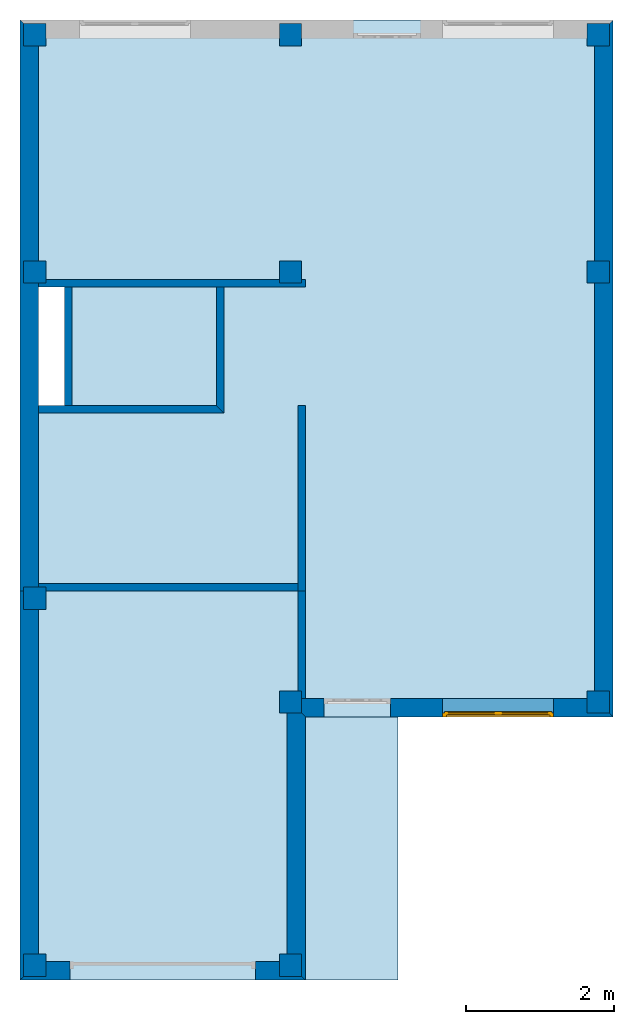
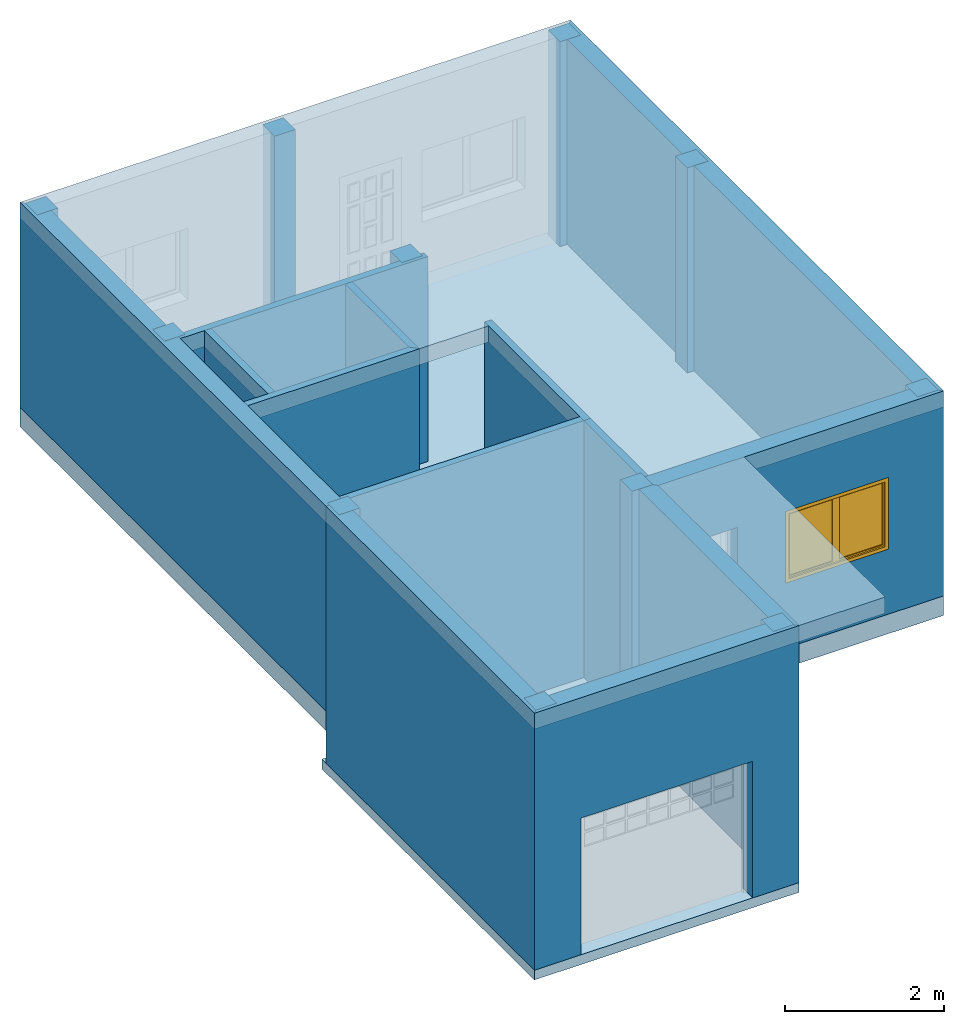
# One storey, part 1 of 5: 13 walls, 11 columns, 3 slabs, 1 window, 6 openings.
"""IFC2X3 building model written with IfcOpenShell, lengths in millimetres."""

import ifcopenshell
import ifcopenshell.guid

model = None  # the IFC model being written
_history = None  # IfcOwnerHistory: only IFC2X3 demands one
_inside = {}  # id of a spatial element -> (the spatial element, [elements in it])
_under = {}  # id of a project, library or spatial element -> (it, [spatial elements below it])
_declared = {}  # id of a project -> (the project, [libraries it declares])
_typed = {}  # id of a type object -> (the type object, [elements of that type])
_made_of = {}  # id of a material, layer set ... -> (it, [elements and type objects made of it])


def new_model(schema):
    """Start an empty IFC model of exactly this schema.

    Asked for "IFC4X3", IfcOpenShell would pick the latest addendum, in which some entities
    have other attributes; the version numbers below select the first issue.
    IFC2X3 requires an IfcOwnerHistory on every rooted entity: one is made here for all.
    """
    global model, _history
    if schema == "IFC4X3":
        model = ifcopenshell.file(schema_version=(4, 3, 0, 0))
    else:
        model = ifcopenshell.file(schema=schema)
    _inside.clear()
    _under.clear()
    _declared.clear()
    _typed.clear()
    _made_of.clear()
    _history = None
    if model.schema == "IFC2X3":
        org = make("IfcOrganization", Name="unknown")
        user = make(
            "IfcPersonAndOrganization",
            ThePerson=make("IfcPerson", FamilyName="unknown"),
            TheOrganization=org,
        )
        app = make(
            "IfcApplication",
            ApplicationDeveloper=org,
            Version="unknown",
            ApplicationFullName="unknown",
            ApplicationIdentifier="unknown",
        )
        _history = make(
            "IfcOwnerHistory",
            OwningUser=user,
            OwningApplication=app,
            ChangeAction="ADDED",
            CreationDate=0,
        )
    return model


def make(cls, **values):
    """One entity of the class cls with the attributes given. An attribute that is None is left unset."""
    return model.create_entity(
        cls, **{name: value for name, value in values.items() if value is not None}
    )


def entity(cls, *values):
    """Any entity or typed value of the class cls, its attributes in the order of the schema. None: left unset."""
    e = model.create_entity(cls)
    for i, value in enumerate(values):
        if value is not None:
            e[i] = value
    return e


def rooted(cls, **values):
    """An entity with a GlobalId (a new one), such as an element, a storey or a relation."""
    return make(cls, GlobalId=ifcopenshell.guid.new(), OwnerHistory=_history, **values)


def si_unit(unit_type, name, prefix=None):
    """IfcSIUnit, for example si_unit("LENGTHUNIT", "METRE", prefix="MILLI")."""
    return make("IfcSIUnit", UnitType=unit_type, Prefix=prefix, Name=name)


def converted_unit(unit_type, name, factor, base, dimensions=None, offset=None):
    """IfcConversionBasedUnit, such as the inch: factor (a typed value) times the base unit."""
    return make(
        "IfcConversionBasedUnit"
        if offset is None
        else "IfcConversionBasedUnitWithOffset",
        ConversionOffset=offset,
        Dimensions=None
        if dimensions is None
        else entity("IfcDimensionalExponents", *dimensions),
        UnitType=unit_type,
        Name=name,
        ConversionFactor=make(
            "IfcMeasureWithUnit", ValueComponent=factor, UnitComponent=base
        ),
    )


def assignment(units):
    """IfcUnitAssignment: the units of a project."""
    return None if units is None else make("IfcUnitAssignment", Units=units)


def point(xyz):
    """IfcCartesianPoint."""
    return None if xyz is None else make("IfcCartesianPoint", Coordinates=xyz)


def direction(xyz):
    """IfcDirection."""
    return None if xyz is None else make("IfcDirection", DirectionRatios=xyz)


def frame(location, z_axis=None, x_axis=None):
    """IfcAxis2Placement3D, a coordinate frame: its origin and axes. An axis left out is left unset."""
    return make(
        "IfcAxis2Placement3D",
        Location=point(location),
        Axis=direction(z_axis),
        RefDirection=direction(x_axis),
    )


def frame_2d(location, x_axis=None):
    """IfcAxis2Placement2D, a coordinate frame in the plane: its origin and x axis."""
    return make(
        "IfcAxis2Placement2D", Location=point(location), RefDirection=direction(x_axis)
    )


def origin_with_axes():
    """The frame at (0, 0, 0) with the z axis (0, 0, 1) and the x axis (1, 0, 0) written out."""
    return frame((0.0, 0.0, 0.0), z_axis=(0.0, 0.0, 1.0), x_axis=(1.0, 0.0, 0.0))


def origin_2d_with_axis():
    """The frame at (0, 0) in the plane with the x axis (1, 0) written out."""
    return frame_2d((0.0, 0.0), x_axis=(1.0, 0.0))


def place(relative_to, where):
    """IfcLocalPlacement: puts the frame where relative to a parent placement (None: the world)."""
    return make(
        "IfcLocalPlacement", PlacementRelTo=relative_to, RelativePlacement=where
    )


def context(
    kind, dimensions, precision=None, world=None, true_north=None, identifier=None
):
    """IfcGeometricRepresentationContext, for example the 3D "Model" context."""
    return make(
        "IfcGeometricRepresentationContext",
        ContextIdentifier=identifier,
        ContextType=kind,
        CoordinateSpaceDimension=dimensions,
        Precision=precision,
        WorldCoordinateSystem=world,
        TrueNorth=true_north,
    )


def project(units=None, contexts=None):
    """IfcProject with its units and contexts."""
    return rooted(
        "IfcProject",
        Name="project",
        RepresentationContexts=contexts,
        UnitsInContext=assignment(units),
    )


def spatial(cls, under=None, at=None, **own):
    """A site, building, storey or space (cls), placed at a placement, below another one or the project."""
    s = rooted(cls, ObjectPlacement=at, **own)
    if under is not None:
        _under.setdefault(under.id(), (under, []))[1].append(s)
    return s


def polyline(points):
    """IfcPolyline through the points."""
    return make("IfcPolyline", Points=[point(p) for p in points])


def profile(cls, at=None, kind="AREA", **sizes):
    """A parametric profile (cls). Its sizes go by their IFC names, for example OverallWidth=200.0."""
    return make(cls, ProfileType=kind, Position=at, **sizes)


def rectangle(**sizes):
    """IfcRectangleProfileDef."""
    return profile("IfcRectangleProfileDef", **sizes)


def outline(outer, holes=None, kind="AREA"):
    """IfcArbitraryClosedProfileDef: a profile drawn as a closed curve; with holes, ...WithVoids."""
    if holes is None:
        return make("IfcArbitraryClosedProfileDef", ProfileType=kind, OuterCurve=outer)
    return make(
        "IfcArbitraryProfileDefWithVoids",
        ProfileType=kind,
        OuterCurve=outer,
        InnerCurves=holes,
    )


def extrude(swept, where, along, depth):
    """IfcExtrudedAreaSolid: the profile swept, set in the frame where, extruded along a direction by depth."""
    return make(
        "IfcExtrudedAreaSolid",
        SweptArea=swept,
        Position=where,
        ExtrudedDirection=direction(along),
        Depth=depth,
    )


def faces_of(points, faces, orient=None, outer=None):
    """IfcFace entities. A face is a list of loops; a loop is a list of indices into points, from 0.

    orient and outer hold one flag for each loop. By default every Orientation is true, the
    first loop of a face is its IfcFaceOuterBound and the others are IfcFaceBound.
    """
    made = []
    for i, loops in enumerate(faces):
        bounds = []
        for j, loop in enumerate(loops):
            is_outer = j == 0 if outer is None else outer[i][j]
            bounds.append(
                make(
                    "IfcFaceOuterBound" if is_outer else "IfcFaceBound",
                    Bound=make("IfcPolyLoop", Polygon=[points[k] for k in loop]),
                    Orientation=True if orient is None else orient[i][j],
                )
            )
        made.append(make("IfcFace", Bounds=bounds))
    return made


def faceted_brep(points, faces, orient=None, outer=None, voids=None):
    """IfcFacetedBrep: a solid bounded by flat faces; with voids (closed shells), ...WithVoids."""
    shared = [point(p) for p in points]
    hull = make("IfcClosedShell", CfsFaces=faces_of(shared, faces, orient, outer))
    if voids is None:
        return make("IfcFacetedBrep", Outer=hull)
    return make(
        "IfcFacetedBrepWithVoids",
        Outer=hull,
        Voids=[
            make(cls, CfsFaces=faces_of(shared, fs, o, b)) for cls, fs, o, b in voids
        ],
    )


def shape(context_of_items, identifier, shape_type, items):
    """IfcShapeRepresentation: the items that make up one representation, for example the "Body"."""
    return make(
        "IfcShapeRepresentation",
        ContextOfItems=context_of_items,
        RepresentationIdentifier=identifier,
        RepresentationType=shape_type,
        Items=items,
    )


def source(mapping_origin, context_of_items, identifier, shape_type, items):
    """IfcRepresentationMap: a shape defined once, which mapped items show again and again."""
    return make(
        "IfcRepresentationMap",
        MappingOrigin=mapping_origin,
        MappedRepresentation=shape(context_of_items, identifier, shape_type, items),
    )


def transform(
    local_origin,
    x_axis=None,
    y_axis=None,
    z_axis=None,
    scale=None,
    scale2=None,
    scale3=None,
    uniform=True,
):
    """IfcCartesianTransformationOperator3D, or its non-uniform kind. x_axis, y_axis, z_axis: its Axis1, 2, 3."""
    if uniform:
        return make(
            "IfcCartesianTransformationOperator3D",
            Axis1=direction(x_axis),
            Axis2=direction(y_axis),
            LocalOrigin=point(local_origin),
            Scale=scale,
            Axis3=direction(z_axis),
        )
    return make(
        "IfcCartesianTransformationOperator3DnonUniform",
        Axis1=direction(x_axis),
        Axis2=direction(y_axis),
        LocalOrigin=point(local_origin),
        Scale=scale,
        Axis3=direction(z_axis),
        Scale2=scale2,
        Scale3=scale3,
    )


def mapped(mapping_source, mapping_target):
    """IfcMappedItem: shows the shape of a source again, moved by a transform."""
    return make(
        "IfcMappedItem", MappingSource=mapping_source, MappingTarget=mapping_target
    )


def material(Name=None, Category=None):
    """IfcMaterial."""
    return make("IfcMaterial", Name=Name, Category=Category)


def layer(
    of_material, thickness, ventilated=None, Name=None, Category=None, Priority=None
):
    """IfcMaterialLayer: one layer of a wall or slab, of a material (None: an air gap)."""
    return make(
        "IfcMaterialLayer",
        Material=of_material,
        LayerThickness=thickness,
        IsVentilated=ventilated,
        Name=Name,
        Category=Category,
        Priority=Priority,
    )


def layer_set(layers, Name=None):
    """IfcMaterialLayerSet."""
    return make("IfcMaterialLayerSet", MaterialLayers=layers, LayerSetName=Name)


def layer_usage(for_layer_set, set_direction, sense, offset, extent=None):
    """IfcMaterialLayerSetUsage: how a layer set lies in its element."""
    return make(
        "IfcMaterialLayerSetUsage",
        ForLayerSet=for_layer_set,
        LayerSetDirection=set_direction,
        DirectionSense=sense,
        OffsetFromReferenceLine=offset,
        ReferenceExtent=extent,
    )


def made_of(thing, what):
    """Note that an element or type object is made of a material, layer set ...; save() writes the relation."""
    if what is not None:
        _made_of.setdefault(what.id(), (what, []))[1].append(thing)
    return thing


def type_object(cls, material=None, **own):
    """A type object (cls), such as IfcWallType, which elements share."""
    return made_of(rooted(cls, **own), material)


def element(
    cls,
    number,
    at=None,
    inside=None,
    cuts=None,
    type_object=None,
    material=None,
    context=None,
    identifier="Body",
    shape_type=None,
    held_by="IfcProductDefinitionShape",
    body=None,
    shapes=None,
    **own,
):
    """One element of the class cls, such as IfcWall. Its Tag is "e" and its number.

    at: its placement. inside: the storey or other place that contains it. cuts: it is an
    opening in that element (IfcRelVoidsElement). A single representation is given by context,
    identifier, shape_type and body (its items); several are given by shapes. held_by: the class
    of the entity that holds the representations. save() writes the other relations.
    """
    e = rooted(cls, Tag="e%d" % number, ObjectPlacement=at, **own)
    if body is not None:
        shapes = [shape(context, identifier, shape_type, body)]
    if shapes is not None:
        e.Representation = make(held_by, Representations=shapes)
    if inside is not None:
        _inside.setdefault(inside.id(), (inside, []))[1].append(e)
    if cuts is not None:
        rooted(
            "IfcRelVoidsElement", RelatingBuildingElement=cuts, RelatedOpeningElement=e
        )
    if type_object is not None:
        _typed.setdefault(type_object.id(), (type_object, []))[1].append(e)
    return made_of(e, material)


def fill(opening, filler):
    """IfcRelFillsElement: the door or window that sits in an opening."""
    return rooted(
        "IfcRelFillsElement",
        RelatingOpeningElement=opening,
        RelatedBuildingElement=filler,
    )


def aggregate(whole, parts):
    """IfcRelAggregates: a whole, such as a stair, and the parts it consists of."""
    return rooted("IfcRelAggregates", RelatingObject=whole, RelatedObjects=parts)


def save(model, path):
    """Write the relations noted so far, then the file.

    IfcRelAggregates (storeys below a building ...), IfcRelContainedInSpatialStructure (elements
    in a storey), IfcRelDefinesByType, IfcRelAssociatesMaterial and IfcRelDeclares: one each for
    every whole, place, type object, material and project.
    """
    for whole, parts in _under.values():
        aggregate(whole, parts)
    for where, things in _inside.values():
        rooted(
            "IfcRelContainedInSpatialStructure",
            RelatedElements=things,
            RelatingStructure=where,
        )
    for kind, things in _typed.values():
        rooted("IfcRelDefinesByType", RelatedObjects=things, RelatingType=kind)
    for what, things in _made_of.values():
        rooted("IfcRelAssociatesMaterial", RelatedObjects=things, RelatingMaterial=what)
    for by, libraries in _declared.values():
        rooted("IfcRelDeclares", RelatingContext=by, RelatedDefinitions=libraries)
    model.write(path)


model = new_model("IFC2X3")

# Units and contexts
context_of_model = context(None, 3, precision=1e-05, world=origin_with_axes(), true_north=direction((6.123234e-17, 1.0)))
plan_context = context("Plan", 3, precision=1e-05, world=origin_with_axes(), true_north=direction((6.123234e-17, 1.0)))
model_context = context("Model", 3, precision=1e-05, world=origin_with_axes(), true_north=direction((6.123234e-17, 1.0)))
ifc_project = project(units=[si_unit("LENGTHUNIT", "METRE", prefix="MILLI"), si_unit("AREAUNIT", "SQUARE_METRE"), si_unit("VOLUMEUNIT", "CUBIC_METRE"), converted_unit("PLANEANGLEUNIT", "DEGREE", entity("IfcPlaneAngleMeasure", 0.017453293), si_unit("PLANEANGLEUNIT", "RADIAN"), dimensions=[0, 0, 0, 0, 0, 0, 0]), si_unit("SOLIDANGLEUNIT", "STERADIAN"), si_unit("MASSUNIT", "GRAM"), si_unit("TIMEUNIT", "SECOND"), si_unit("THERMODYNAMICTEMPERATUREUNIT", "DEGREE_CELSIUS"), si_unit("LUMINOUSINTENSITYUNIT", "LUMEN")], contexts=[context_of_model, plan_context, model_context])

# Site, building, storey
site_placement = place(None, origin_with_axes())
site = spatial("IfcSite", under=ifc_project, at=site_placement, Name="Por defecto Sitio", CompositionType="ELEMENT")
building_placement = place(site_placement, origin_with_axes())
building = spatial("IfcBuilding", under=site, at=building_placement, Name="Por defecto Edificio", CompositionType="ELEMENT")
storey_placement = place(building_placement, origin_with_axes())
storey = spatial("IfcBuildingStorey", under=building, at=storey_placement, Name="Planta Baja", CompositionType="ELEMENT", Elevation=0.0)

# Columns
ifc_material_1 = material(Name="Hormigón armado")
for number, where, z_axis, x_axis, name in (
    (1, (0.0, 0.0, 0.0), (0.0, 0.0, 1.0), (1.0, 0.0, 0.0), "Pilar-001"),
    (2, (3450.0, 0.0, 0.0), (0.0, 0.0, 1.0), (1.0, 0.0, 0.0), "Pilar-002"),
    (3, (3450.0, 3550.0, 0.0), (0.0, 0.0, 1.0), (1.0, 0.0, 0.0), "Pilar-003"),
    (4, (7600.0, 3550.0, 0.0), (0.0, 0.0, 1.0), (1.0, 0.0, 0.0), "Pilar-004"),
    (5, (0.0, 4950.0, 0.0), (0.0, 0.0, 1.0), (1.0, 0.0, 0.0), "Pilar-005"),
    (6, (7600.0, 9350.0, 0.0), (0.0, 0.0, 1.0), (1.0, 0.0, 0.0), "Pilar-006"),
    (7, (3450.0, 9350.0, 0.0), (0.0, 0.0, 1.0), (1.0, 0.0, 0.0), "Pilar-007"),
    (8, (0.0, 9350.0, 0.0), (0.0, 0.0, 1.0), (1.0, 0.0, 0.0), "Pilar-008"),
    (9, (0.0, 12550.0, 0.0), (0.0, 0.0, 1.0), (1.0, 0.0, 0.0), "Pilar-009"),
    (10, (3450.0, 12550.0, 0.0), (0.0, 0.0, 1.0), (1.0, 0.0, 0.0), "Pilar-010"),
    (11, (7600.0, 12550.0, 0.0), (0.0, 0.0, 1.0), (1.0, 0.0, 0.0), "Pilar-011"),
):
    element("IfcColumn", number, at=place(storey_placement, frame(where, z_axis=z_axis, x_axis=x_axis)), inside=storey, material=ifc_material_1, Name=name, context=model_context, shape_type="SweptSolid", body=[
        extrude(rectangle(XDim=300.0, YDim=300.0, at=origin_2d_with_axis()), origin_with_axes(), (0.0, 0.0, 1.0), 3150.0),
    ])

# Slab, opening
ifc_layer_1 = layer(ifc_material_1, 300.0, ventilated="UNKNOWN")
ifc_layer_set_1 = layer_set([ifc_layer_1], Name="Hormigón armado 300")
ifc_layer_usage_1 = layer_usage(ifc_layer_set_1, "AXIS3", "NEGATIVE", 300.0)
slab_1_placement = place(storey_placement, frame((7800.0, 3350.0, -300.0), z_axis=(0.0, 0.0, 1.0), x_axis=(-1.0, 0.0, 0.0)))
slab_1 = element("IfcSlab", 12, at=slab_1_placement, inside=storey, material=ifc_layer_usage_1, Name="Forj-001", PredefinedType="FLOOR", context=model_context, shape_type="SweptSolid", body=[
    extrude(outline(polyline([(0.0, 0.0), (4250.0, 0.0), (4250.0, -1700.0), (8000.0, -1700.0), (8000.0, -9400.0), (0.0, -9400.0), (0.0, 0.0)])), origin_with_axes(), (0.0, 0.0, 1.0), 300.0),
])
opening_1_placement = place(slab_1_placement, origin_with_axes())
element("IfcOpeningElement", 13, at=opening_1_placement, cuts=slab_1, context=model_context, shape_type="SweptSolid", body=[
    extrude(outline(polyline([(7749.9999, -5800.0), (7400.0, -5800.0), (7400.0, -4200.0), (7749.9999, -4200.0), (7749.9999, -5800.0)])), origin_with_axes(), (0.0, 0.0, 1.0), 300.0),
])

# Slab, openings
ifc_layer_2 = layer(ifc_material_1, 250.0, ventilated="UNKNOWN")
ifc_layer_set_2 = layer_set([ifc_layer_2], Name="Hormigón armado 250")
ifc_layer_usage_2 = layer_usage(ifc_layer_set_2, "AXIS3", "NEGATIVE", 250.0)
slab_2_placement = place(storey_placement, frame((7800.0, 3350.0, 2900.0), z_axis=(0.0, 0.0, 1.0), x_axis=(-1.0, 0.0, 0.0)))
slab_2 = element("IfcSlab", 14, at=slab_2_placement, inside=storey, material=ifc_layer_usage_2, Name="Forj-002", PredefinedType="FLOOR", context=model_context, shape_type="SweptSolid", body=[
    extrude(outline(polyline([(0.0, 0.0), (2900.0, 0.0), (2900.0, 3550.0), (8000.0, 3550.0), (8000.0, -9400.0), (0.0, -9400.0), (0.0, 0.0)])), origin_with_axes(), (0.0, 0.0, 1.0), 250.0),
])
opening_2_placement = place(slab_2_placement, origin_with_axes())
element("IfcOpeningElement", 15, at=opening_2_placement, cuts=slab_2, context=model_context, shape_type="SweptSolid", body=[
    extrude(outline(polyline([(7749.9999, -4099.9999), (4250.0, -4099.9999), (4250.0, -1800.0), (7749.9999, -1800.0), (7749.9999, -4099.9999)])), origin_with_axes(), (0.0, 0.0, 1.0), 250.0),
])
opening_3_placement = place(slab_2_placement, origin_with_axes())
element("IfcOpeningElement", 16, at=opening_3_placement, cuts=slab_2, context=model_context, shape_type="SweptSolid", body=[
    extrude(outline(polyline([(7749.9999, -5800.0), (7400.0, -5800.0), (7400.0, -4200.0), (7749.9999, -4200.0), (7749.9999, -5800.0)])), origin_with_axes(), (0.0, 0.0, 1.0), 250.0),
])

# Slab
ifc_material_2 = material(Name="Hormigón en masa")
ifc_layer_3 = layer(ifc_material_2, 150.0, ventilated="UNKNOWN")
ifc_layer_set_3 = layer_set([ifc_layer_3], Name="Hormigón en masa 150")
ifc_layer_usage_3 = layer_usage(ifc_layer_set_3, "AXIS3", "NEGATIVE", 150.0)
slab_3_placement = place(storey_placement, frame((3650.0, -200.0, -950.0), z_axis=(0.0, 0.0, 1.0), x_axis=(-1.0, 0.0, 0.0)))
element("IfcSlab", 17, at=slab_3_placement, inside=storey, material=ifc_layer_usage_3, Name="Forj-003", PredefinedType="FLOOR", context=model_context, shape_type="SweptSolid", body=[
    extrude(outline(polyline([(0.0, 0.0), (3850.0, 0.0), (3850.0, -5350.0), (0.0, -5350.0), (0.0, 0.0)])), origin_with_axes(), (0.0, 0.0, 1.0), 150.0),
])

# Wall, openings, window
ifc_material_3 = material(Name="Bloque mampostería")
ifc_layer_4 = layer(ifc_material_3, 250.0, ventilated="UNKNOWN")
ifc_layer_set_4 = layer_set([ifc_layer_4], Name="Bloque mampostería 250")
ifc_layer_usage_4 = layer_usage(ifc_layer_set_4, "AXIS2", "NEGATIVE", 0.0)
wall_type_1 = type_object("IfcWallType", Name="Bloque mampostería 250", PredefinedType="NOTDEFINED", material=ifc_layer_set_4)
wall_1_placement = place(storey_placement, frame((7800.0, 3350.0, 0.0), z_axis=(0.0, 0.0, 1.0), x_axis=(-1.0, 0.0, 0.0)))
wall_1 = element("IfcWallStandardCase", 18, at=wall_1_placement, inside=storey, type_object=wall_type_1, material=ifc_layer_usage_4, Name="Muro-001", context=model_context, shape_type="SweptSolid", body=[
    extrude(outline(polyline([(250.0, -250.0), (4400.0, -250.0), (4150.0, 0.0), (0.0, 0.0), (250.0, -250.0)])), origin_with_axes(), (0.0, 0.0, 1.0), 3150.0),
])
opening_4_placement = place(wall_1_placement, frame((3450.0, -250.0, 0.0), z_axis=(0.0, 0.0, 1.0), x_axis=(1.0, 0.0, 0.0)))
element("IfcOpeningElement", 19, at=opening_4_placement, cuts=wall_1, ObjectType="Opening", context=model_context, shape_type="SweptSolid", body=[
    extrude(rectangle(XDim=900.0, YDim=2100.0, at=frame_2d((0.0, 1050.0), x_axis=(-1.0, 0.0))), frame((0.0, 0.0, 0.0), z_axis=(0.0, 1.0, 0.0), x_axis=(-1.0, 0.0, 0.0)), (0.0, 0.0, 1.0), 250.0),
])
opening_5_placement = place(wall_1_placement, frame((1550.0, -250.0, 1000.0), z_axis=(0.0, 0.0, 1.0), x_axis=(1.0, 0.0, 0.0)))
opening_5 = element("IfcOpeningElement", 20, at=opening_5_placement, cuts=wall_1, ObjectType="Opening", context=model_context, shape_type="SweptSolid", body=[
    extrude(rectangle(XDim=1500.0, YDim=1100.0, at=frame_2d((0.0, 550.0), x_axis=(-1.0, 0.0))), frame((0.0, 0.0, 0.0), z_axis=(0.0, 1.0, 0.0), x_axis=(-1.0, 0.0, 0.0)), (0.0, 0.0, 1.0), 250.0),
])
window_style = type_object("IfcWindowStyle", Name="V2 Practicable 13", ConstructionType="NOTDEFINED", OperationType="SINGLE_PANEL", ParameterTakesPrecedence=False, Sizeable=False)
shared_shape = source(origin_with_axes(), model_context, "Body", "Brep", [
    faceted_brep([(25.0, 50.0, 1050.0), (0.0, 50.0, 1050.0), (0.0, 0.0, 1050.0), (50.0, 0.0, 1050.0), (50.0, 25.0, 1050.0), (25.0, 25.0, 1050.0), (25.0, 50.0, 50.0), (0.0, 50.0, 50.0), (0.0, 0.0, 50.0), (50.0, 0.0, 50.0), (50.0, 25.0, 50.0), (25.0, 25.0, 50.0)], [[[0, 1, 2, 3, 4, 5]], [[6, 7, 1, 0]], [[1, 7, 8, 2]], [[2, 8, 9, 3]], [[4, 3, 9, 10]], [[10, 11, 5, 4]], [[5, 11, 6, 0]], [[11, 10, 9, 8, 7, 6]]]),
    faceted_brep([(1450.0, 25.0, 1050.0), (1450.0, 0.0, 1050.0), (1500.0, 0.0, 1050.0), (1500.0, 50.0, 1050.0), (1475.0, 50.0, 1050.0), (1475.0, 25.0, 1050.0), (1450.0, 25.0, 50.0), (1450.0, 0.0, 50.0), (1500.0, 0.0, 50.0), (1500.0, 50.0, 50.0), (1475.0, 50.0, 50.0), (1475.0, 25.0, 50.0)], [[[0, 1, 2, 3, 4, 5]], [[6, 7, 1, 0]], [[8, 2, 1, 7]], [[9, 3, 2, 8]], [[4, 3, 9, 10]], [[10, 11, 5, 4]], [[5, 11, 6, 0]], [[11, 10, 9, 8, 7, 6]]]),
    faceted_brep([(1450.0, 25.0, 50.0), (1450.0, 0.0, 50.0), (1500.0, 0.0, 50.0), (1500.0, 50.0, 50.0), (1475.0, 50.0, 50.0), (1475.0, 25.0, 50.0), (50.0, 25.0, 50.0), (50.0, 0.0, 50.0), (0.0, 0.0, 50.0), (0.0, 0.0, 0.0), (1500.0, 0.0, 0.0), (1500.0, 50.0, 0.0), (25.0, 50.0, 25.0), (750.0, 50.0, 25.0), (1475.0, 50.0, 25.0), (0.0, 50.0, 0.0), (0.0, 50.0, 50.0), (25.0, 50.0, 50.0), (1475.0, 25.0, 25.0), (750.0, 25.0, 25.0), (25.0, 25.0, 25.0), (25.0, 25.0, 50.0)], [[[0, 1, 2, 3, 4, 5]], [[6, 7, 1, 0]], [[8, 9, 10, 2, 1, 7]], [[11, 3, 2, 10]], [[12, 13, 14, 4, 3, 11, 15, 16, 17]], [[14, 18, 5, 4]], [[5, 18, 19, 20, 21, 6, 0]], [[21, 17, 16, 8, 7, 6]], [[16, 15, 9, 8]], [[15, 11, 10, 9]], [[12, 20, 19, 13]], [[13, 19, 18, 14]], [[21, 20, 12, 17]]]),
    faceted_brep([(25.0, 50.0, 1075.0), (25.0, 50.0, 1050.0), (0.0, 50.0, 1050.0), (0.0, 50.0, 1100.0), (1500.0, 50.0, 1100.0), (1500.0, 50.0, 1050.0), (1475.0, 50.0, 1050.0), (1475.0, 50.0, 1075.0), (750.0, 50.0, 1075.0), (25.0, 25.0, 1075.0), (25.0, 25.0, 1050.0), (50.0, 25.0, 1050.0), (50.0, 0.0, 1050.0), (0.0, 0.0, 1050.0), (0.0, 0.0, 1100.0), (1500.0, 0.0, 1100.0), (1500.0, 0.0, 1050.0), (1475.0, 25.0, 1050.0), (1450.0, 0.0, 1050.0), (1450.0, 25.0, 1050.0), (1475.0, 25.0, 1075.0), (750.0, 25.0, 1075.0)], [[[0, 1, 2, 3, 4, 5, 6, 7, 8]], [[0, 9, 10, 1]], [[10, 11, 12, 13, 2, 1]], [[3, 2, 13, 14]], [[4, 3, 14, 15]], [[5, 4, 15, 16]], [[17, 6, 5, 16, 18, 19]], [[6, 17, 20, 7]], [[7, 20, 21, 8]], [[8, 21, 9, 0]], [[19, 11, 10, 9, 21, 20, 17]], [[19, 18, 12, 11]], [[16, 15, 14, 13, 12, 18]]]),
    faceted_brep([(1425.0, 25.0, 75.0), (1425.0, 25.0, 1025.0), (1425.0, 75.0, 1025.0), (1425.0, 75.0, 75.0), (1475.0, 25.0, 75.0), (1475.0, 25.0, 1025.0), (1475.0, 75.0, 1025.0), (1475.0, 75.0, 75.0)], [[[0, 1, 2, 3]], [[0, 4, 5, 1]], [[1, 5, 6, 2]], [[3, 2, 6, 7]], [[4, 0, 3, 7]], [[5, 4, 7, 6]]]),
    faceted_brep([(750.0, 25.0, 75.0), (750.0, 25.0, 1025.0), (750.0, 75.0, 1025.0), (750.0, 75.0, 75.0), (800.0, 25.0, 75.0), (800.0, 25.0, 1025.0), (800.0, 75.0, 1025.0), (800.0, 75.0, 75.0)], [[[0, 1, 2, 3]], [[0, 4, 5, 1]], [[1, 5, 6, 2]], [[3, 2, 6, 7]], [[4, 0, 3, 7]], [[5, 4, 7, 6]]]),
    faceted_brep([(750.0, 25.0, 25.0), (750.0, 25.0, 75.0), (750.0, 75.0, 75.0), (750.0, 75.0, 25.0), (1475.0, 25.0, 25.0), (1475.0, 25.0, 75.0), (1425.0, 25.0, 75.0), (800.0, 25.0, 75.0), (800.0, 75.0, 75.0), (1425.0, 75.0, 75.0), (1475.0, 75.0, 75.0), (1475.0, 75.0, 25.0)], [[[0, 1, 2, 3]], [[0, 4, 5, 6, 7, 1]], [[1, 7, 8, 2]], [[3, 2, 8, 9, 10, 11]], [[4, 0, 3, 11]], [[5, 4, 11, 10]], [[6, 5, 10, 9]], [[7, 6, 9, 8]]]),
    faceted_brep([(1475.0, 25.0, 1075.0), (1475.0, 25.0, 1025.0), (1475.0, 75.0, 1025.0), (1475.0, 75.0, 1075.0), (750.0, 25.0, 1075.0), (750.0, 25.0, 1025.0), (800.0, 25.0, 1025.0), (1425.0, 25.0, 1025.0), (1425.0, 75.0, 1025.0), (800.0, 75.0, 1025.0), (750.0, 75.0, 1025.0), (750.0, 75.0, 1075.0)], [[[0, 1, 2, 3]], [[0, 4, 5, 6, 7, 1]], [[1, 7, 8, 2]], [[3, 2, 8, 9, 10, 11]], [[4, 0, 3, 11]], [[5, 4, 11, 10]], [[6, 5, 10, 9]], [[7, 6, 9, 8]]]),
    faceted_brep([(1425.0, 40.0, 75.0), (800.0, 40.0, 75.0), (800.0, 60.0, 75.0), (1425.0, 60.0, 75.0), (1425.0, 40.0, 1025.0), (800.0, 40.0, 1025.0), (800.0, 60.0, 1025.0), (1425.0, 60.0, 1025.0)], [[[0, 1, 2, 3]], [[0, 4, 5, 1]], [[1, 5, 6, 2]], [[3, 2, 6, 7]], [[4, 0, 3, 7]], [[5, 4, 7, 6]]]),
    faceted_brep([(700.0, 25.0, 75.0), (700.0, 25.0, 1025.0), (700.0, 75.0, 1025.0), (700.0, 75.0, 75.0), (750.0, 25.0, 75.0), (750.0, 25.0, 1025.0), (750.0, 75.0, 1025.0), (750.0, 75.0, 75.0)], [[[0, 1, 2, 3]], [[0, 4, 5, 1]], [[1, 5, 6, 2]], [[3, 2, 6, 7]], [[4, 0, 3, 7]], [[5, 4, 7, 6]]]),
    faceted_brep([(25.0, 25.0, 75.0), (25.0, 25.0, 1025.0), (25.0, 75.0, 1025.0), (25.0, 75.0, 75.0), (75.0, 25.0, 75.0), (75.0, 25.0, 1025.0), (75.0, 75.0, 1025.0), (75.0, 75.0, 75.0)], [[[0, 1, 2, 3]], [[0, 4, 5, 1]], [[1, 5, 6, 2]], [[3, 2, 6, 7]], [[4, 0, 3, 7]], [[5, 4, 7, 6]]]),
    faceted_brep([(25.0, 25.0, 25.0), (25.0, 25.0, 75.0), (25.0, 75.0, 75.0), (25.0, 75.0, 25.0), (750.0, 25.0, 25.0), (750.0, 25.0, 75.0), (700.0, 25.0, 75.0), (75.0, 25.0, 75.0), (75.0, 75.0, 75.0), (700.0, 75.0, 75.0), (750.0, 75.0, 75.0), (750.0, 75.0, 25.0)], [[[0, 1, 2, 3]], [[0, 4, 5, 6, 7, 1]], [[1, 7, 8, 2]], [[3, 2, 8, 9, 10, 11]], [[4, 0, 3, 11]], [[5, 4, 11, 10]], [[6, 5, 10, 9]], [[7, 6, 9, 8]]]),
    faceted_brep([(750.0, 25.0, 1075.0), (750.0, 25.0, 1025.0), (750.0, 75.0, 1025.0), (750.0, 75.0, 1075.0), (25.0, 25.0, 1075.0), (25.0, 25.0, 1025.0), (75.0, 25.0, 1025.0), (700.0, 25.0, 1025.0), (700.0, 75.0, 1025.0), (75.0, 75.0, 1025.0), (25.0, 75.0, 1025.0), (25.0, 75.0, 1075.0)], [[[0, 1, 2, 3]], [[0, 4, 5, 6, 7, 1]], [[1, 7, 8, 2]], [[3, 2, 8, 9, 10, 11]], [[4, 0, 3, 11]], [[5, 4, 11, 10]], [[6, 5, 10, 9]], [[7, 6, 9, 8]]]),
    faceted_brep([(700.0, 40.0, 75.0), (75.0, 40.0, 75.0), (75.0, 60.0, 75.0), (700.0, 60.0, 75.0), (700.0, 40.0, 1025.0), (75.0, 40.0, 1025.0), (75.0, 60.0, 1025.0), (700.0, 60.0, 1025.0)], [[[0, 1, 2, 3]], [[0, 4, 5, 1]], [[1, 5, 6, 2]], [[3, 2, 6, 7]], [[4, 0, 3, 7]], [[5, 4, 7, 6]]]),
])
window_placement = place(opening_5_placement, frame((750.0, 250.0, 0.0), z_axis=(0.0, 0.0, 1.0), x_axis=(-1.0, 0.0, 0.0)))
window = element("IfcWindow", 21, at=window_placement, inside=storey, type_object=window_style, Name="V03", OverallHeight=1100.0, OverallWidth=1500.0, context=model_context, shape_type="MappedRepresentation", body=[
    mapped(shared_shape, transform((0.0, 0.0, 0.0), scale=1.0)),
])
fill(opening_5, window)

# Wall
ifc_layer_usage_5 = layer_usage(ifc_layer_set_4, "AXIS2", "NEGATIVE", 0.0)
wall_2_placement = place(storey_placement, frame((3650.0, 3350.0, -800.0), z_axis=(0.0, 0.0, 1.0), x_axis=(0.0, -1.0, 0.0)))
element("IfcWallStandardCase", 22, at=wall_2_placement, inside=storey, type_object=wall_type_1, material=ifc_layer_usage_5, Name="Muro-002", context=model_context, shape_type="SweptSolid", body=[
    extrude(outline(polyline([(-250.0, -250.0), (3300.0, -250.0), (3550.0, 0.0), (0.0, 0.0), (-250.0, -250.0)])), origin_with_axes(), (0.0, 0.0, 1.0), 3950.0),
])

# Wall, opening
ifc_layer_usage_6 = layer_usage(ifc_layer_set_4, "AXIS2", "NEGATIVE", 0.0)
wall_3_placement = place(storey_placement, frame((3650.0, -200.0, -800.0), z_axis=(0.0, 0.0, 1.0), x_axis=(-1.0, 0.0, 0.0)))
wall_3 = element("IfcWallStandardCase", 23, at=wall_3_placement, inside=storey, type_object=wall_type_1, material=ifc_layer_usage_6, Name="Muro-003", context=model_context, shape_type="SweptSolid", body=[
    extrude(outline(polyline([(250.0, -250.0), (3600.0, -250.0), (3850.0, 0.0), (0.0, 0.0), (250.0, -250.0)])), origin_with_axes(), (0.0, 0.0, 1.0), 3950.0),
])
opening_6_placement = place(wall_3_placement, frame((1925.0, -250.0, 0.0), z_axis=(0.0, 0.0, 1.0), x_axis=(1.0, 0.0, 0.0)))
element("IfcOpeningElement", 24, at=opening_6_placement, cuts=wall_3, ObjectType="Opening", context=model_context, shape_type="SweptSolid", body=[
    extrude(rectangle(XDim=2500.0, YDim=2100.0, at=frame_2d((0.0, 1050.0), x_axis=(-1.0, 0.0))), frame((0.0, 0.0, 0.0), z_axis=(0.0, 1.0, 0.0), x_axis=(-1.0, 0.0, 0.0)), (0.0, 0.0, 1.0), 250.0),
])

# Walls
ifc_layer_usage_7 = layer_usage(ifc_layer_set_4, "AXIS2", "NEGATIVE", 0.0)
wall_4_placement = place(storey_placement, frame((-200.0, 5050.0, 0.0), z_axis=(0.0, 0.0, 1.0), x_axis=(0.0, 1.0, 0.0)))
element("IfcWallStandardCase", 25, at=wall_4_placement, inside=storey, type_object=wall_type_1, material=ifc_layer_usage_7, Name="Muro-004", context=model_context, shape_type="SweptSolid", body=[
    extrude(outline(polyline([(0.0, -250.0), (7450.0, -250.0), (7700.0, 0.0), (0.0, 0.0), (0.0, -250.0)])), origin_with_axes(), (0.0, 0.0, 1.0), 3150.0),
])
ifc_layer_usage_8 = layer_usage(ifc_layer_set_4, "AXIS2", "NEGATIVE", 0.0)
wall_5_placement = place(storey_placement, frame((7800.0, 12750.0, 0.0), z_axis=(0.0, 0.0, 1.0), x_axis=(0.0, -1.0, 0.0)))
element("IfcWallStandardCase", 26, at=wall_5_placement, inside=storey, type_object=wall_type_1, material=ifc_layer_usage_8, Name="Muro-006", context=model_context, shape_type="SweptSolid", body=[
    extrude(outline(polyline([(250.0, -250.0), (9150.0, -250.0), (9400.0, 0.0), (0.0, 0.0), (250.0, -250.0)])), origin_with_axes(), (0.0, 0.0, 1.0), 3150.0),
])
ifc_layer_usage_9 = layer_usage(ifc_layer_set_4, "AXIS2", "NEGATIVE", 0.0)
wall_6_placement = place(storey_placement, frame((-200.0, -200.0, -800.0), z_axis=(0.0, 0.0, 1.0), x_axis=(0.0, 1.0, 0.0)))
element("IfcWallStandardCase", 27, at=wall_6_placement, inside=storey, type_object=wall_type_1, material=ifc_layer_usage_9, Name="Muro-003", context=model_context, shape_type="SweptSolid", body=[
    extrude(outline(polyline([(250.0, -250.0), (5250.0, -250.0), (5250.0, 0.0), (0.0, 0.0), (250.0, -250.0)])), origin_with_axes(), (0.0, 0.0, 1.0), 3950.0),
])
ifc_layer_5 = layer(ifc_material_3, 100.0, ventilated="UNKNOWN")
ifc_layer_set_5 = layer_set([ifc_layer_5], Name="Bloque mampostería 100")
ifc_layer_usage_10 = layer_usage(ifc_layer_set_5, "AXIS2", "POSITIVE", 0.0)
wall_type_2 = type_object("IfcWallType", Name="Bloque mampostería 100", PredefinedType="NOTDEFINED", material=ifc_layer_set_5)
wall_7_placement = place(storey_placement, frame((3650.0, 5050.0, 0.0), z_axis=(0.0, 0.0, 1.0), x_axis=(0.0, 1.0, 0.0)))
element("IfcWallStandardCase", 28, at=wall_7_placement, inside=storey, type_object=wall_type_2, material=ifc_layer_usage_10, Name="Muro-007", context=model_context, shape_type="SweptSolid", body=[
    extrude(outline(polyline([(0.0, 0.0), (2500.0, 0.0), (2500.0, 100.0), (0.0, 100.0), (0.0, 0.0)])), origin_with_axes(), (0.0, 0.0, 1.0), 3150.0),
])
ifc_layer_usage_11 = layer_usage(ifc_layer_set_5, "AXIS2", "NEGATIVE", 0.0)
wall_8_placement = place(storey_placement, frame((3650.0, 9150.0, 0.0), z_axis=(0.0, 0.0, 1.0), x_axis=(-1.0, 0.0, 0.0)))
element("IfcWallStandardCase", 29, at=wall_8_placement, inside=storey, type_object=wall_type_2, material=ifc_layer_usage_11, Name="Muro-008", context=model_context, shape_type="SweptSolid", body=[
    extrude(outline(polyline([(0.0, -100.0), (3600.0, -100.0), (3600.0, 0.0), (0.0, 0.0), (0.0, -100.0)])), origin_with_axes(), (0.0, 0.0, 1.0), 3150.0),
])
ifc_layer_usage_12 = layer_usage(ifc_layer_set_5, "AXIS2", "NEGATIVE", 0.0)
wall_9_placement = place(storey_placement, frame((500.00006, 9150.0, 0.0), z_axis=(0.0, 0.0, 1.0), x_axis=(0.0, -1.0, 0.0)))
element("IfcWallStandardCase", 30, at=wall_9_placement, inside=storey, type_object=wall_type_2, material=ifc_layer_usage_12, Name="Muro-009", context=model_context, shape_type="SweptSolid", body=[
    extrude(outline(polyline([(0.0, -100.0), (1600.0001, -100.0), (1600.0001, 0.0), (0.0, 0.0), (0.0, -100.0)])), origin_with_axes(), (0.0, 0.0, 1.0), 3150.0),
])
ifc_layer_usage_13 = layer_usage(ifc_layer_set_5, "AXIS2", "NEGATIVE", 0.0)
wall_10_placement = place(storey_placement, frame((2549.9999, 9150.0, 0.0), z_axis=(0.0, 0.0, 1.0), x_axis=(0.0, -1.0, 0.0)))
element("IfcWallStandardCase", 31, at=wall_10_placement, inside=storey, type_object=wall_type_2, material=ifc_layer_usage_13, Name="Muro-010", context=model_context, shape_type="SweptSolid", body=[
    extrude(outline(polyline([(0.0, -100.0), (1600.0001, -100.0), (1700.0001, 0.0), (0.0, 0.0), (0.0, -100.0)])), origin_with_axes(), (0.0, 0.0, 1.0), 3150.0),
])
ifc_layer_usage_14 = layer_usage(ifc_layer_set_5, "AXIS2", "NEGATIVE", 0.0)
wall_11_placement = place(storey_placement, frame((2549.9999, 7449.9999, 0.0), z_axis=(0.0, 0.0, 1.0), x_axis=(-1.0, 0.0, 0.0)))
element("IfcWallStandardCase", 32, at=wall_11_placement, inside=storey, type_object=wall_type_2, material=ifc_layer_usage_14, Name="Muro-011", context=model_context, shape_type="SweptSolid", body=[
    extrude(outline(polyline([(100.0, -100.0), (2499.9999, -100.0), (2499.9999, 0.0), (0.0, 0.0), (100.0, -100.0)])), origin_with_axes(), (0.0, 0.0, 1.0), 3150.0),
])
ifc_layer_usage_15 = layer_usage(ifc_layer_set_5, "AXIS2", "NEGATIVE", 0.0)
wall_12_placement = place(storey_placement, frame((3650.0, 5050.0, -800.0), z_axis=(0.0, 0.0, 1.0), x_axis=(0.0, -1.0, 0.0)))
element("IfcWallStandardCase", 33, at=wall_12_placement, inside=storey, type_object=wall_type_2, material=ifc_layer_usage_15, Name="Muro-007", context=model_context, shape_type="SweptSolid", body=[
    extrude(outline(polyline([(0.0, -100.0), (1450.0, -100.0), (1450.0, 0.0), (0.0, 0.0), (0.0, -100.0)])), origin_with_axes(), (0.0, 0.0, 1.0), 3950.0),
])
ifc_layer_usage_16 = layer_usage(ifc_layer_set_5, "AXIS2", "NEGATIVE", 0.0)
wall_13_placement = place(storey_placement, frame((3650.0, 5050.0, -800.0), z_axis=(0.0, 0.0, 1.0), x_axis=(-1.0, 0.0, 0.0)))
element("IfcWallStandardCase", 34, at=wall_13_placement, inside=storey, type_object=wall_type_2, material=ifc_layer_usage_16, Name="Muro-008", context=model_context, shape_type="SweptSolid", body=[
    extrude(outline(polyline([(100.0, -100.0), (3600.0, -100.0), (3600.0, 0.0), (100.0, 0.0), (100.0, -100.0)])), origin_with_axes(), (0.0, 0.0, 1.0), 3950.0),
])

save(model, "model.ifc")
